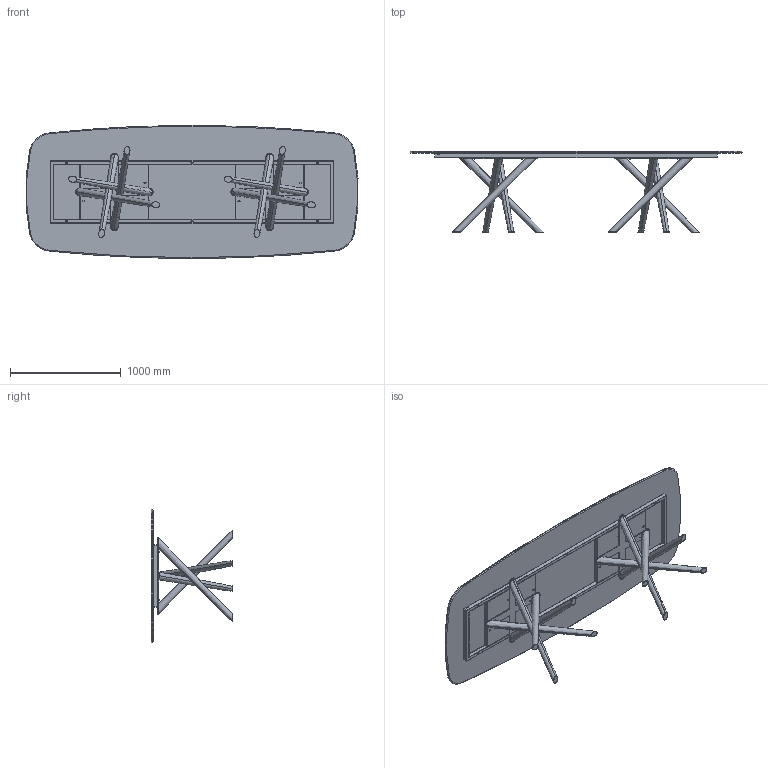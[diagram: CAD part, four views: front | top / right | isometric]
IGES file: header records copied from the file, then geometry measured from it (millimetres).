
Start section: SolidWorks IGES file using analytic representation for surfaces
Global section: file name: Y:\eforma\TECNICO\SOLIDWORKS\E-FORMA\1-TAVOLI\BALY\02 parts\BA44C.IGS; native system: SolidWorks 2022; preprocessor: SolidWorks 2022; author: eforma.tech; date: 240808.082425; units: millimetre
Bounding box: 2991.72 x 731 x 1200 mm (x, y, z)
Volume: 62892981 mm3; surface area: 19936711.7 mm2
Topology: 55 solids, 55 shells, 1053 faces, 2383 edges, 1426 vertices
Faces by surface type: revolution 605, plane 432, bspline 16
